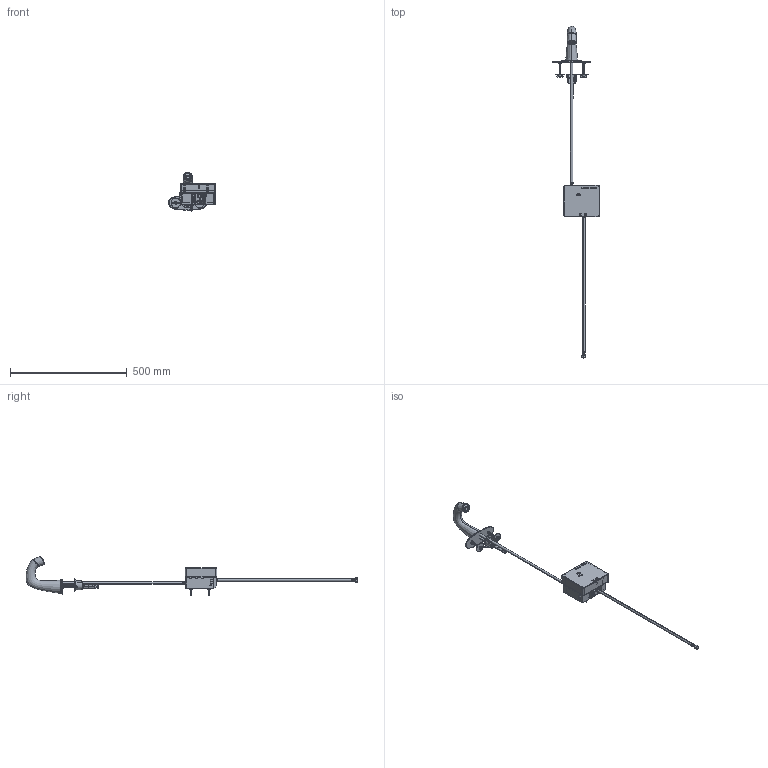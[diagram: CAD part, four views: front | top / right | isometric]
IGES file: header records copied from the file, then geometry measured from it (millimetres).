
Start section:  PTC IGES file: eq-a12a-11abcp_sw0001.igs
Global section: file name: eq-a12a-11abcp_sw0001.igs; native system: Creo Parametric by Parametric Technology Corporation; preprocessor: 2013050; author: jrodriguez; organization: Unknown; date: 20140919.101753; units: inch
Bounding box: 201.91 x 1424.53 x 168.04 mm (x, y, z)
Surface area: 398584.9 mm2 (no closed solid volume)
Topology: 0 solids, 0 shells, 1687 faces, 16687 edges, 23347 vertices
Faces by surface type: bspline 911, revolution 776
